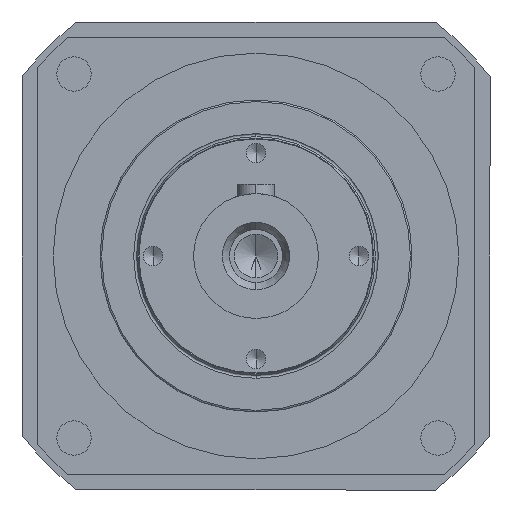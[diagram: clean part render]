
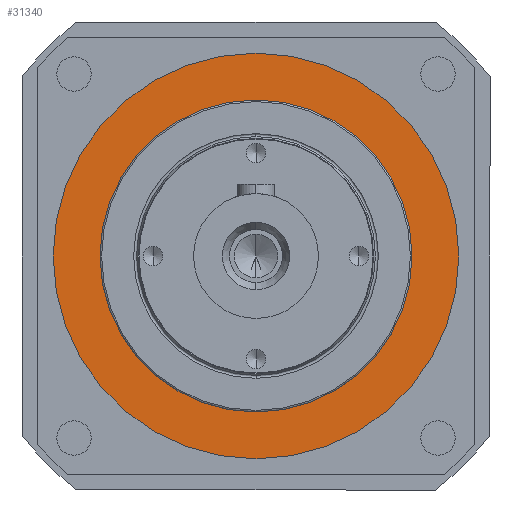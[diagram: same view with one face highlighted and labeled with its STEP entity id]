
A CAD part, left-side view. The second image highlights one B-rep face of the part: STEP entity #31340.
In plain terms, the highlighted planar face has unit normal (-1, 0, 0).
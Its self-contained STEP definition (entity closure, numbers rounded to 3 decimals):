
#443 = ORIENTED_EDGE ( 'NONE', *, *, #16197, .F. ) ;
#654 = CARTESIAN_POINT ( 'NONE',  ( 84., 0., 50. ) ) ;
#683 = FACE_OUTER_BOUND ( 'NONE', #19019, .T. ) ;
#1211 = VERTEX_POINT ( 'NONE', #22785 ) ;
#1526 = FACE_BOUND ( 'NONE', #21353, .T. ) ;
#2111 = VERTEX_POINT ( 'NONE', #654 ) ;
#3181 = ORIENTED_EDGE ( 'NONE', *, *, #12316, .F. ) ;
#4188 = ORIENTED_EDGE ( 'NONE', *, *, #33014, .F. ) ;
#4798 = CARTESIAN_POINT ( 'NONE',  ( 84., 0., 0. ) ) ;
#6472 = CARTESIAN_POINT ( 'NONE',  ( 84., 0., -65. ) ) ;
#7528 = DIRECTION ( 'NONE',  ( 0., 0., 1. ) ) ;
#9192 = EDGE_CURVE ( 'NONE', #1211, #21916, #24408, .T. ) ;
#9443 = AXIS2_PLACEMENT_3D ( 'NONE', #9573, #28607, #12306 ) ;
#9573 = CARTESIAN_POINT ( 'NONE',  ( 84., 0., 0. ) ) ;
#10647 = AXIS2_PLACEMENT_3D ( 'NONE', #13053, #32085, #15775 ) ;
#12306 = DIRECTION ( 'NONE',  ( 0., 0., 1. ) ) ;
#12316 = EDGE_CURVE ( 'NONE', #2111, #23298, #28318, .T. ) ;
#13053 = CARTESIAN_POINT ( 'NONE',  ( 84., 0., 0. ) ) ;
#13477 = ORIENTED_EDGE ( 'NONE', *, *, #9192, .F. ) ;
#13583 = CIRCLE ( 'NONE', #25726, 50. ) ;
#13882 = DIRECTION ( 'NONE',  ( -1., 0., 0. ) ) ;
#15775 = DIRECTION ( 'NONE',  ( 0., 0., 1. ) ) ;
#16197 = EDGE_CURVE ( 'NONE', #23298, #2111, #13583, .T. ) ;
#17847 = DIRECTION ( 'NONE',  ( 0., 0., -1. ) ) ;
#18250 = AXIS2_PLACEMENT_3D ( 'NONE', #4798, #23834, #7528 ) ;
#19019 = EDGE_LOOP ( 'NONE', ( #13477, #4188 ) ) ;
#21353 = EDGE_LOOP ( 'NONE', ( #3181, #443 ) ) ;
#21651 = AXIS2_PLACEMENT_3D ( 'NONE', #23103, #34187, #17847 ) ;
#21916 = VERTEX_POINT ( 'NONE', #6472 ) ;
#22785 = CARTESIAN_POINT ( 'NONE',  ( 84., 0., 65. ) ) ;
#23103 = CARTESIAN_POINT ( 'NONE',  ( 84., 0., -50. ) ) ;
#23298 = VERTEX_POINT ( 'NONE', #32053 ) ;
#23834 = DIRECTION ( 'NONE',  ( 1., 0., 0. ) ) ;
#24408 = CIRCLE ( 'NONE', #9443, 65. ) ;
#25726 = AXIS2_PLACEMENT_3D ( 'NONE', #29724, #13882, #32934 ) ;
#28318 = CIRCLE ( 'NONE', #10647, 50. ) ;
#28607 = DIRECTION ( 'NONE',  ( 1., 0., 0. ) ) ;
#29724 = CARTESIAN_POINT ( 'NONE',  ( 84., 0., 0. ) ) ;
#31233 = CIRCLE ( 'NONE', #18250, 65. ) ;
#31340 = ADVANCED_FACE ( 'NONE', ( #1526, #683 ), #31446, .F. ) ;
#31446 = PLANE ( 'NONE',  #21651 ) ;
#32053 = CARTESIAN_POINT ( 'NONE',  ( 84., 0., -50. ) ) ;
#32085 = DIRECTION ( 'NONE',  ( -1., 0., 0. ) ) ;
#32934 = DIRECTION ( 'NONE',  ( 0., 0., 1. ) ) ;
#33014 = EDGE_CURVE ( 'NONE', #21916, #1211, #31233, .T. ) ;
#34187 = DIRECTION ( 'NONE',  ( 1., 0., 0. ) ) ;
